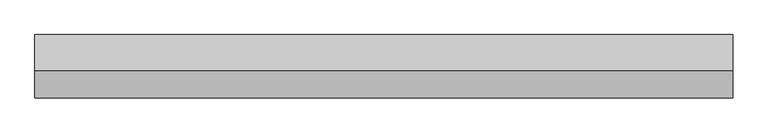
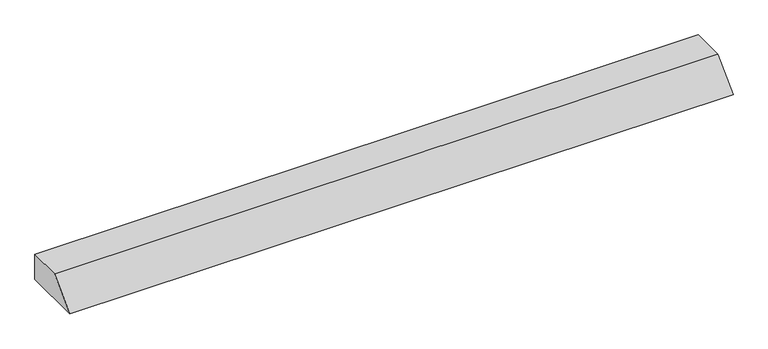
"""IFC4 building model written with IfcOpenShell, lengths in millimetres: proxy geometry, Gousset radier bord droit : Gousset radier bord droit."""

from ifc_helpers import new_model, si_unit, frame, origin, place, context, project, spatial, polyline, outline, extrude, source, transform, mapped, element, save


def generic_models_388254e4(model_context):
    return source(origin(), model_context, "Body", "SweptSolid", [
        extrude(outline(polyline([(0.0, 0.0), (-800.0, 0.0), (-450.0, 350.0), (0.0, 350.0), (0.0, 0.0)])), frame((0.0, 0.0, 0.0), z_axis=(1.0, 0.0, 0.0), x_axis=(0.0, 1.0, 0.0)), (0.0, 0.0, 1.0), 8785.0),
    ])


if __name__ == "__main__":
    model = new_model("IFC4")
    model_context = context("Model", 3, world=origin())
    ifc_project = project(units=[si_unit("LENGTHUNIT", "METRE", prefix="MILLI")], contexts=[model_context])
    site = spatial("IfcSite", under=ifc_project)
    building = spatial("IfcBuilding", under=site)
    placement = place(None, origin())
    generic_models_shape = generic_models_388254e4(model_context)
    element("IfcBuildingElementProxy", 1, Name="Gousset radier bord droit : Gousset radier bord droit", ObjectType="Gousset radier bord droit : Gousset radier bord droit", at=placement, inside=building, context=model_context, shape_type="MappedRepresentation", body=[
        mapped(generic_models_shape, transform((0.0, 0.0, 0.0), x_axis=(1.0, 0.0, 0.0), y_axis=(0.0, 1.0, 0.0), z_axis=(0.0, 0.0, 1.0))),
    ])
    save(model, "model.ifc")
